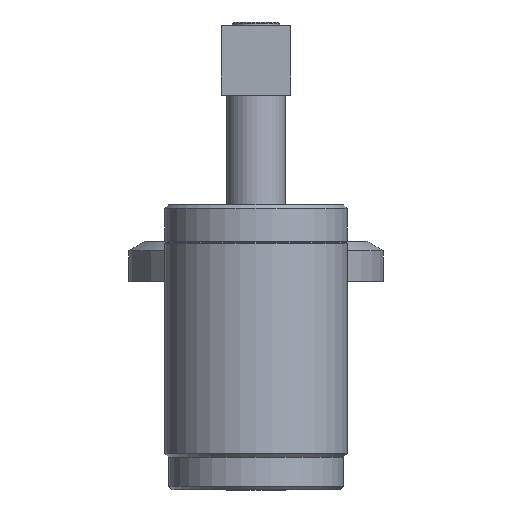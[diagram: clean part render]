
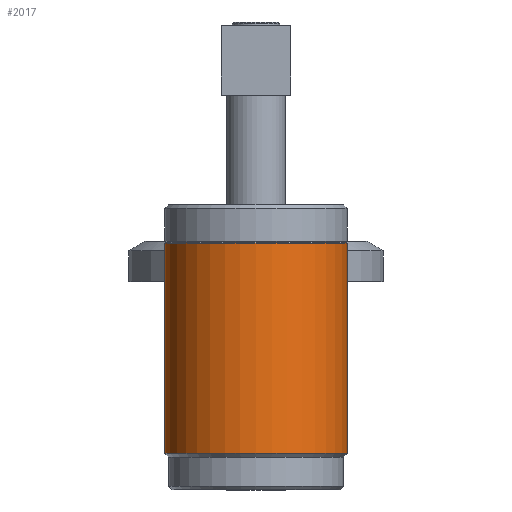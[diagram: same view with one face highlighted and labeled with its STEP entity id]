
A CAD part, left-side view. The second image highlights one B-rep face of the part: STEP entity #2017.
In plain terms, the highlighted cylindrical face has radius 25 mm (diameter 50 mm), a full revolution.
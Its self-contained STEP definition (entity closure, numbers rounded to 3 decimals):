
#225=CYLINDRICAL_SURFACE('',#2201,25.);
#491=ORIENTED_EDGE('',*,*,#678,.T.);
#492=ORIENTED_EDGE('',*,*,#688,.T.);
#678=EDGE_CURVE('',#811,#811,#894,.F.);
#688=EDGE_CURVE('',#821,#821,#904,.T.);
#811=VERTEX_POINT('',#2931);
#821=VERTEX_POINT('',#2961);
#894=CIRCLE('',#2180,25.);
#904=CIRCLE('',#2200,25.);
#1046=EDGE_LOOP('',(#491));
#1047=EDGE_LOOP('',(#492));
#1204=FACE_BOUND('',#1046,.T.);
#1205=FACE_BOUND('',#1047,.T.);
#2017=ADVANCED_FACE('',(#1204,#1205),#225,.T.);
#2180=AXIS2_PLACEMENT_3D('',#2930,#2510,#2511);
#2200=AXIS2_PLACEMENT_3D('',#2960,#2550,#2551);
#2201=AXIS2_PLACEMENT_3D('',#2962,#2552,#2553);
#2510=DIRECTION('',(0.,0.,1.));
#2511=DIRECTION('',(1.,0.,0.));
#2550=DIRECTION('',(0.,0.,1.));
#2551=DIRECTION('',(1.,0.,0.));
#2552=DIRECTION('',(0.,0.,1.));
#2553=DIRECTION('',(1.,0.,0.));
#2930=CARTESIAN_POINT('',(-0.718,0.,67.5));
#2931=CARTESIAN_POINT('',(24.282,0.,67.5));
#2960=CARTESIAN_POINT('',(-0.718,0.,10.));
#2961=CARTESIAN_POINT('',(24.282,0.,10.));
#2962=CARTESIAN_POINT('',(-0.718,0.,142.6));
